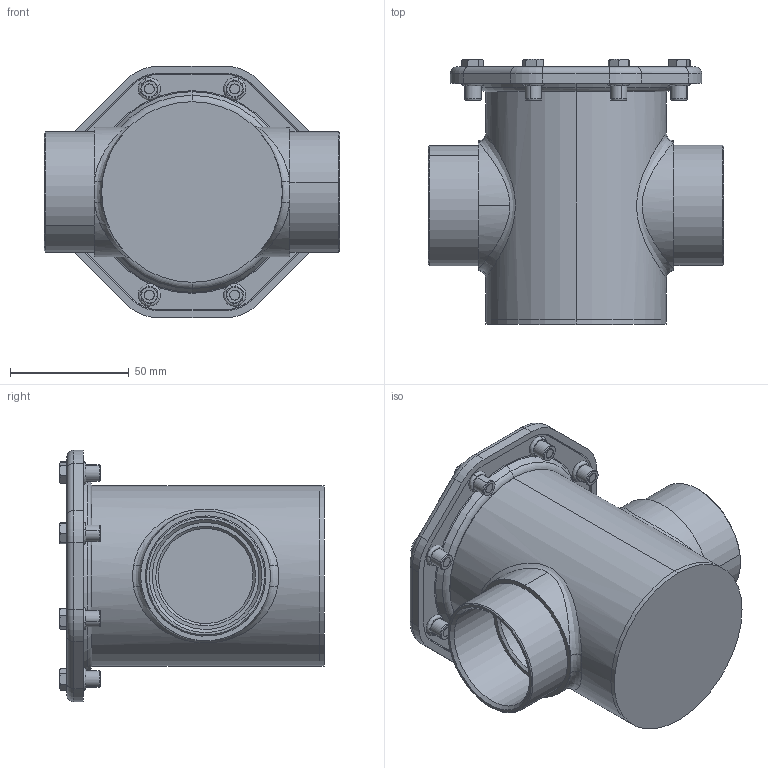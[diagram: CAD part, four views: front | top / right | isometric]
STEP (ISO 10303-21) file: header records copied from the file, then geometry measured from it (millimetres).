
FILE_DESCRIPTION (( 'STEP AP203' ), '1' );
FILE_NAME ('06L1827 G 1 1_2.STEP', '2024-01-17T08:38:17', ( '' ), ( '' ), 'SwSTEP 2.0', 'SolidWorks 2016', '' );
FILE_SCHEMA (( 'CONFIG_CONTROL_DESIGN' ));
Length unit declared in the file: millimetre
Products named in the file (18): RIVETTO M5 x sp. 2.5; 06L1834_06G1643; 06L1832; 06L1828; 06E0605; 06L1801_06G1636; ANELLO OR 6262_05G1647; 06I1724; 06D1917; 06L1829_06G1632; 06L1833; 06L1831_06G1643; 06I1823; 06D1916; 06E0604; 06L1830_06G1635; 06L1827 G 1 1_2; VITE TE M5 x 8_TE M5 x 14
Assembly tree (31 placements, depth 4):
  06L1827 G 1 1_2
    06D1917
      06D1916
        06L1830_06G1635
        06I1724
        06E0605
        06L1834_06G1643
        06L1831_06G1643
      RIVETTO M5 x sp. 2.5  x8
    ANELLO OR 6262_05G1647
    VITE TE M5 x 8_TE M5 x 14  x8
    06L1833
      06E0604
      06L1801_06G1636
      06L1828
        06L1829_06G1632
        06I1823
    06L1832
Bounding box: 124.5 x 111.5 x 106 mm (x, y, z)
Volume: 160296 mm3; surface area: 132728.9 mm2
Topology: 27 solids, 27 shells, 898 faces, 2114 edges, 1300 vertices
Faces by surface type: plane 547, cylinder 179, cone 106, torus 54, bspline 12
Entity records: 17511 total; most frequent: CARTESIAN_POINT 5128, DIRECTION 2204, ORIENTED_EDGE 2044, EDGE_CURVE 1022, AXIS2_PLACEMENT_3D 829, VERTEX_POINT 642, LINE 546, VECTOR 546
